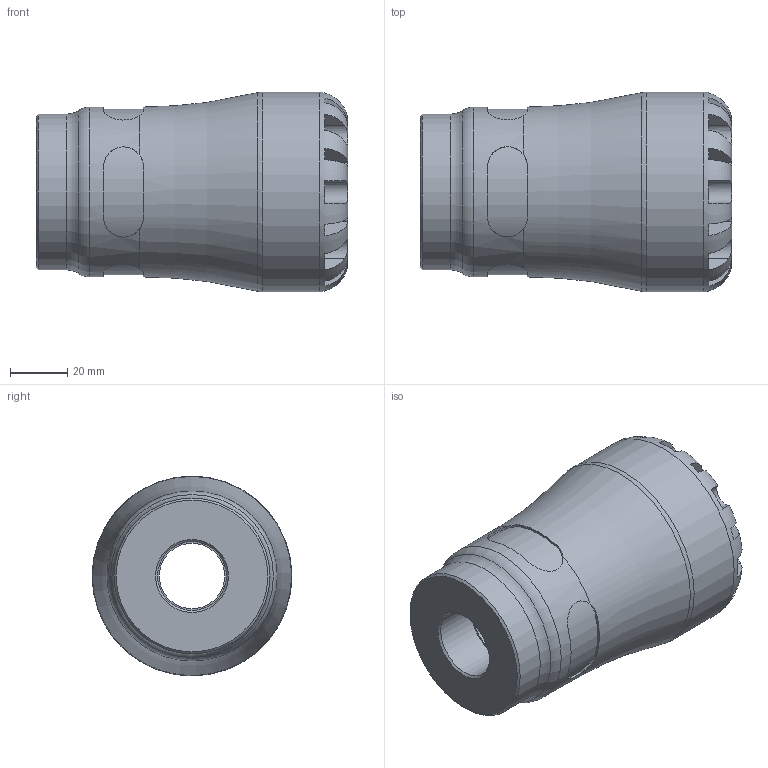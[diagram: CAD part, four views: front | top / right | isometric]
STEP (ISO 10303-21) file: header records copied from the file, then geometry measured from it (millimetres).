
FILE_DESCRIPTION(/* description */ ('PLASSON FEMALE INTEGRAL BRASS THREAD 40X3/4" SERIES 1'),/* implementation_level */ '2;1');
FILE_NAME(/* name */ 'C:\Dropbox\KIMPROJECTS-Inventor\99-16-3568-Processing\1073\107300040007_197300040007.ipt.stp',/* time_stamp */ '2017-01-22T11:35:34+02:00',/* author */ ('KIM'),/* organization */ (''),/* preprocessor_version */ 'ST-DEVELOPER v15.6',/* originating_system */ 'Autodesk Inventor 2015',/* authorisation */ '');
FILE_SCHEMA (('AUTOMOTIVE_DESIGN { 1 0 10303 214 3 1 1 }'));
Length unit declared in the file: millimetre
Products named in the file (1): 107300040007_197300040007
Bounding box: 109 x 70 x 70 mm (x, y, z)
Volume: 223124.1 mm3; surface area: 40214.4 mm2
Topology: 1 solids, 1 shells, 104 faces, 265 edges, 166 vertices
Faces by surface type: plane 61, cylinder 35, torus 5, cone 3
Full cylindrical faces by diameter (mm): 22.911 x1, 24.117 x1, 33.333 x1, 40 x1, 54.6 x1, 59.5 x1, 70 x1
Entity records: 3884 total; most frequent: CARTESIAN_POINT 1497, ORIENTED_EDGE 492, DIRECTION 478, EDGE_CURVE 246, AXIS2_PLACEMENT_3D 199, VERTEX_POINT 162, EDGE_LOOP 124, FACE_OUTER_BOUND 104
